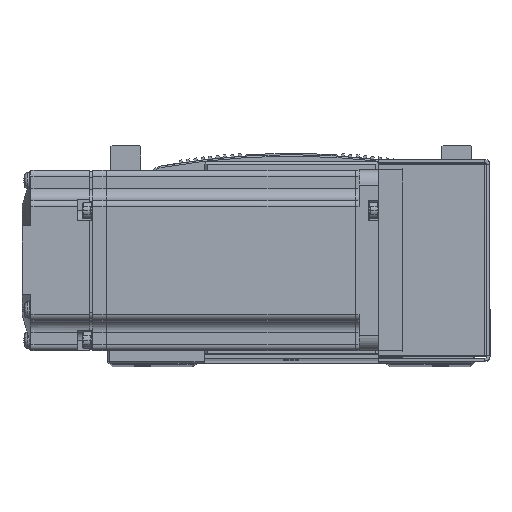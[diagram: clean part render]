
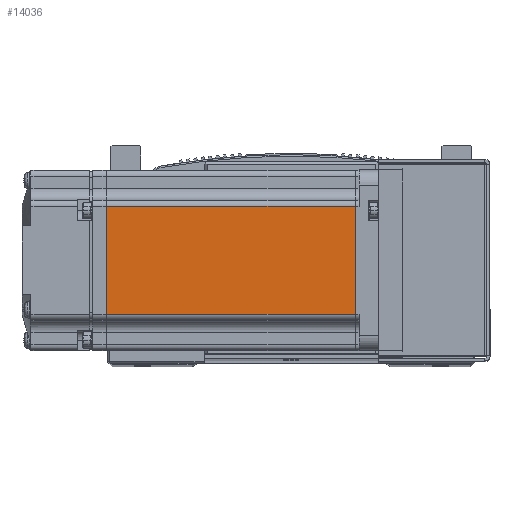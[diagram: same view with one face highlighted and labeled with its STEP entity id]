
A CAD part, top view. The second image highlights one B-rep face of the part: STEP entity #14036.
In plain terms, the highlighted planar face has unit normal (0, 0, 1) as drawn and (0, 1, 0) by its records, which use the part's own axes.
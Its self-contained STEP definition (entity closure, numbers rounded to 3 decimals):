
#12201 = EDGE_CURVE ( 'NONE', #58981, #59126, #36800, .T. ) ;
#12203 = EDGE_CURVE ( 'NONE', #58955, #59149, #36783, .T. ) ;
#12267 = EDGE_CURVE ( 'NONE', #59149, #58981, #36880, .T. ) ;
#12279 = EDGE_CURVE ( 'NONE', #58955, #59126, #36892, .T. ) ;
#14036 = ADVANCED_FACE ( 'NONE', ( #42689 ), #67058, .T. ) ;
#23301 = AXIS2_PLACEMENT_3D ( 'NONE', #67038, #67039, #67066 ) ;
#36718 = VECTOR ( 'NONE', #72453, 1000. ) ;
#36783 = LINE ( 'NONE', #72452, #36718 ) ;
#36800 = LINE ( 'NONE', #72481, #36802 ) ;
#36802 = VECTOR ( 'NONE', #72484, 1000. ) ;
#36880 = LINE ( 'NONE', #72632, #36927 ) ;
#36892 = LINE ( 'NONE', #72782, #36896 ) ;
#36896 = VECTOR ( 'NONE', #72767, 1000. ) ;
#36927 = VECTOR ( 'NONE', #72706, 1000. ) ;
#42689 = FACE_OUTER_BOUND ( 'NONE', #59708, .T. ) ;
#52007 = CARTESIAN_POINT ( 'NONE',  ( -7.75, 30., -18. ) ) ;
#58955 = VERTEX_POINT ( 'NONE', #52007 ) ;
#58981 = VERTEX_POINT ( 'NONE', #61090 ) ;
#59042 = CARTESIAN_POINT ( 'NONE',  ( -90.45, 30., -18. ) ) ;
#59109 = CARTESIAN_POINT ( 'NONE',  ( -7.75, 30., 18. ) ) ;
#59126 = VERTEX_POINT ( 'NONE', #59109 ) ;
#59149 = VERTEX_POINT ( 'NONE', #59042 ) ;
#59708 = EDGE_LOOP ( 'NONE', ( #77633, #77575, #77606, #77647 ) ) ;
#61090 = CARTESIAN_POINT ( 'NONE',  ( -90.45, 30., 18. ) ) ;
#67038 = CARTESIAN_POINT ( 'NONE',  ( -6.5, 30., 25. ) ) ;
#67039 = DIRECTION ( 'NONE',  ( 0., 1., 0. ) ) ;
#67058 = PLANE ( 'NONE',  #23301 ) ;
#67066 = DIRECTION ( 'NONE',  ( 0., 0., 1. ) ) ;
#72452 = CARTESIAN_POINT ( 'NONE',  ( -6.5, 30., -18. ) ) ;
#72453 = DIRECTION ( 'NONE',  ( -1., 0., 0. ) ) ;
#72481 = CARTESIAN_POINT ( 'NONE',  ( -6.5, 30., 18. ) ) ;
#72484 = DIRECTION ( 'NONE',  ( 1., 0., 0. ) ) ;
#72632 = CARTESIAN_POINT ( 'NONE',  ( -90.45, 30., 0. ) ) ;
#72706 = DIRECTION ( 'NONE',  ( 0., 0., 1. ) ) ;
#72767 = DIRECTION ( 'NONE',  ( 0., 0., 1. ) ) ;
#72782 = CARTESIAN_POINT ( 'NONE',  ( -7.75, 30., 0. ) ) ;
#77575 = ORIENTED_EDGE ( 'NONE', *, *, #12203, .T. ) ;
#77606 = ORIENTED_EDGE ( 'NONE', *, *, #12267, .T. ) ;
#77633 = ORIENTED_EDGE ( 'NONE', *, *, #12279, .F. ) ;
#77647 = ORIENTED_EDGE ( 'NONE', *, *, #12201, .T. ) ;
